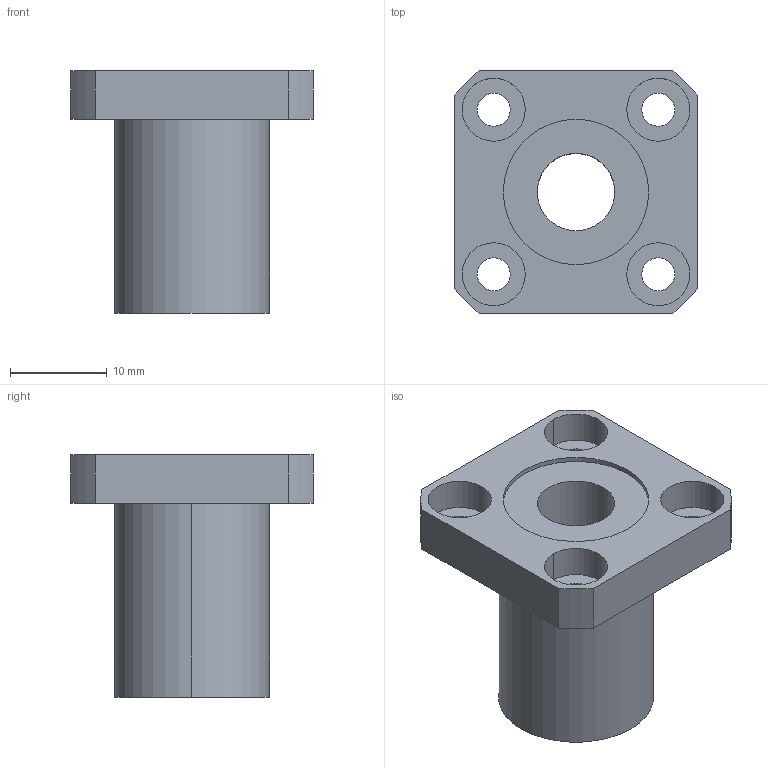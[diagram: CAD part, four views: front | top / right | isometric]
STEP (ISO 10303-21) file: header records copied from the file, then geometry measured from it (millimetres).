
FILE_DESCRIPTION((''),'2;1');
FILE_NAME('C:\Documents and Settings\ｿﾀﾀ蠑ｷ1\ｹﾙﾅﾁ ﾈｭｸ饅\ｺﾎﾇｰﾆﾄﾀﾏ\ﾁｦﾇｰ\LMEK__UU\LMEK8UU.stp','2005-06-15T10:57:29',('ｿﾀﾀ蠑ｷ1'),(''),'Autodesk Inventor 9','Autodesk Inventor 9','');
FILE_SCHEMA(('AUTOMOTIVE_DESIGN { 1 0 10303 214 1 1 1 1 }'));
Length unit declared in the file: millimetre
Products named in the file (1): LMEK__(L)
Bounding box: 25 x 25 x 25 mm (x, y, z)
Volume: 5205 mm3; surface area: 3521.9 mm2
Topology: 1 solids, 1 shells, 41 faces, 96 edges, 64 vertices
Faces by surface type: bspline 20, cylinder 12, plane 9
Entity records: 1457 total; most frequent: CARTESIAN_POINT 486, DIRECTION 196, ORIENTED_EDGE 192, EDGE_CURVE 96, AXIS2_PLACEMENT_3D 78, VERTEX_POINT 64, EDGE_LOOP 58, CIRCLE 56
